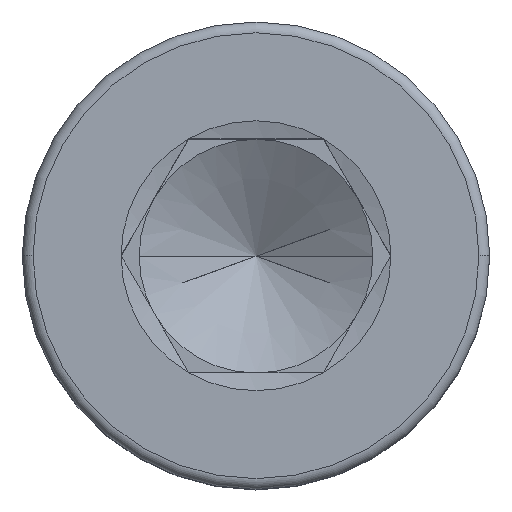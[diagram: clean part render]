
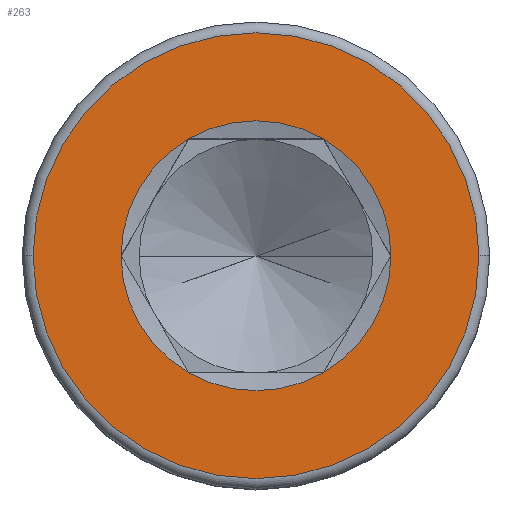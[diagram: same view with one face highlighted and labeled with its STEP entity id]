
A CAD part, top view. The second image highlights one B-rep face of the part: STEP entity #263.
In plain terms, the highlighted planar face has unit normal (0, 0, 1).
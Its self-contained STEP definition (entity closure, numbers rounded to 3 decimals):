
#3 = AXIS2_PLACEMENT_3D ( 'NONE', #1196, #114, #1206 ) ;
#4 = CIRCLE ( 'NONE', #504, 4.619 ) ;
#17 = DIRECTION ( 'NONE',  ( 0., 0., 1. ) ) ;
#114 = DIRECTION ( 'NONE',  ( 0., 0., 1. ) ) ;
#119 = VERTEX_POINT ( 'NONE', #765 ) ;
#159 = ORIENTED_EDGE ( 'NONE', *, *, #1180, .T. ) ;
#163 = CARTESIAN_POINT ( 'NONE',  ( 0., 0., 10. ) ) ;
#202 = CARTESIAN_POINT ( 'NONE',  ( 0., 0., 10. ) ) ;
#212 = CARTESIAN_POINT ( 'NONE',  ( 0., 0., 10. ) ) ;
#218 = DIRECTION ( 'NONE',  ( 1., 0., 0. ) ) ;
#231 = DIRECTION ( 'NONE',  ( 1., 0., 0. ) ) ;
#256 = DIRECTION ( 'NONE',  ( 0., 0., 1. ) ) ;
#263 = ADVANCED_FACE ( 'NONE', ( #819, #1492 ), #1077, .T. ) ;
#273 = CIRCLE ( 'NONE', #1540, 4.619 ) ;
#303 = AXIS2_PLACEMENT_3D ( 'NONE', #467, #1285, #712 ) ;
#315 = ORIENTED_EDGE ( 'NONE', *, *, #486, .T. ) ;
#330 = AXIS2_PLACEMENT_3D ( 'NONE', #1376, #256, #801 ) ;
#337 = VERTEX_POINT ( 'NONE', #355 ) ;
#355 = CARTESIAN_POINT ( 'NONE',  ( -2.309, -4., 10. ) ) ;
#371 = EDGE_LOOP ( 'NONE', ( #159, #315 ) ) ;
#447 = CIRCLE ( 'NONE', #1512, 4.619 ) ;
#467 = CARTESIAN_POINT ( 'NONE',  ( 0., 0., 10. ) ) ;
#480 = CARTESIAN_POINT ( 'NONE',  ( -2.309, 4., 10. ) ) ;
#486 = EDGE_CURVE ( 'NONE', #890, #837, #1394, .T. ) ;
#504 = AXIS2_PLACEMENT_3D ( 'NONE', #202, #743, #1684 ) ;
#524 = CARTESIAN_POINT ( 'NONE',  ( 0., 0., 10. ) ) ;
#560 = ORIENTED_EDGE ( 'NONE', *, *, #884, .F. ) ;
#575 = DIRECTION ( 'NONE',  ( 1., 0., 0. ) ) ;
#597 = AXIS2_PLACEMENT_3D ( 'NONE', #212, #1022, #1309 ) ;
#615 = EDGE_LOOP ( 'NONE', ( #1058, #990, #1632, #1070, #931, #560 ) ) ;
#643 = CIRCLE ( 'NONE', #1424, 4.619 ) ;
#651 = CARTESIAN_POINT ( 'NONE',  ( 0., 0., 10. ) ) ;
#670 = EDGE_CURVE ( 'NONE', #119, #1032, #643, .T. ) ;
#708 = EDGE_CURVE ( 'NONE', #1103, #337, #1483, .T. ) ;
#712 = DIRECTION ( 'NONE',  ( 1., 0., 0. ) ) ;
#715 = CIRCLE ( 'NONE', #744, 4.619 ) ;
#743 = DIRECTION ( 'NONE',  ( 0., 0., 1. ) ) ;
#744 = AXIS2_PLACEMENT_3D ( 'NONE', #651, #1485, #218 ) ;
#765 = CARTESIAN_POINT ( 'NONE',  ( 4.619, 0., 10. ) ) ;
#784 = CARTESIAN_POINT ( 'NONE',  ( 2.309, -4., 10. ) ) ;
#801 = DIRECTION ( 'NONE',  ( 1., 0., 0. ) ) ;
#814 = EDGE_CURVE ( 'NONE', #1328, #119, #273, .T. ) ;
#819 = FACE_OUTER_BOUND ( 'NONE', #371, .T. ) ;
#837 = VERTEX_POINT ( 'NONE', #1072 ) ;
#847 = CARTESIAN_POINT ( 'NONE',  ( -4.619, 0., 10. ) ) ;
#884 = EDGE_CURVE ( 'NONE', #1032, #1174, #447, .T. ) ;
#890 = VERTEX_POINT ( 'NONE', #1469 ) ;
#931 = ORIENTED_EDGE ( 'NONE', *, *, #1025, .F. ) ;
#990 = ORIENTED_EDGE ( 'NONE', *, *, #814, .F. ) ;
#1022 = DIRECTION ( 'NONE',  ( 0., 0., 1. ) ) ;
#1025 = EDGE_CURVE ( 'NONE', #1174, #1103, #4, .T. ) ;
#1032 = VERTEX_POINT ( 'NONE', #1567 ) ;
#1046 = DIRECTION ( 'NONE',  ( 0., 0., 1. ) ) ;
#1058 = ORIENTED_EDGE ( 'NONE', *, *, #670, .F. ) ;
#1070 = ORIENTED_EDGE ( 'NONE', *, *, #708, .F. ) ;
#1072 = CARTESIAN_POINT ( 'NONE',  ( 7.63, 0., 10. ) ) ;
#1077 = PLANE ( 'NONE',  #330 ) ;
#1103 = VERTEX_POINT ( 'NONE', #847 ) ;
#1174 = VERTEX_POINT ( 'NONE', #480 ) ;
#1175 = CARTESIAN_POINT ( 'NONE',  ( 0., 0., 10. ) ) ;
#1180 = EDGE_CURVE ( 'NONE', #837, #890, #1378, .T. ) ;
#1196 = CARTESIAN_POINT ( 'NONE',  ( 0., 0., 10. ) ) ;
#1206 = DIRECTION ( 'NONE',  ( 1., 0., 0. ) ) ;
#1285 = DIRECTION ( 'NONE',  ( 0., 0., 1. ) ) ;
#1309 = DIRECTION ( 'NONE',  ( 1., 0., 0. ) ) ;
#1328 = VERTEX_POINT ( 'NONE', #784 ) ;
#1373 = EDGE_CURVE ( 'NONE', #337, #1328, #715, .T. ) ;
#1376 = CARTESIAN_POINT ( 'NONE',  ( 0., 0., 10. ) ) ;
#1378 = CIRCLE ( 'NONE', #597, 7.63 ) ;
#1394 = CIRCLE ( 'NONE', #3, 7.63 ) ;
#1424 = AXIS2_PLACEMENT_3D ( 'NONE', #163, #17, #575 ) ;
#1469 = CARTESIAN_POINT ( 'NONE',  ( -7.63, 0., 10. ) ) ;
#1483 = CIRCLE ( 'NONE', #303, 4.619 ) ;
#1485 = DIRECTION ( 'NONE',  ( 0., 0., 1. ) ) ;
#1492 = FACE_BOUND ( 'NONE', #615, .T. ) ;
#1512 = AXIS2_PLACEMENT_3D ( 'NONE', #1175, #1046, #231 ) ;
#1540 = AXIS2_PLACEMENT_3D ( 'NONE', #524, #1616, #1598 ) ;
#1567 = CARTESIAN_POINT ( 'NONE',  ( 2.309, 4., 10. ) ) ;
#1598 = DIRECTION ( 'NONE',  ( 1., 0., 0. ) ) ;
#1616 = DIRECTION ( 'NONE',  ( 0., 0., 1. ) ) ;
#1632 = ORIENTED_EDGE ( 'NONE', *, *, #1373, .F. ) ;
#1684 = DIRECTION ( 'NONE',  ( 1., 0., 0. ) ) ;
